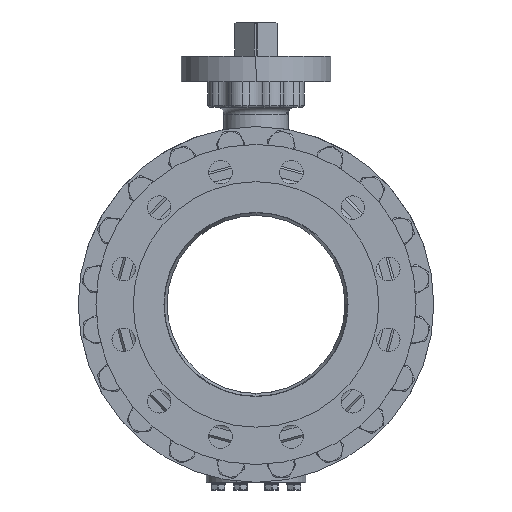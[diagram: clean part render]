
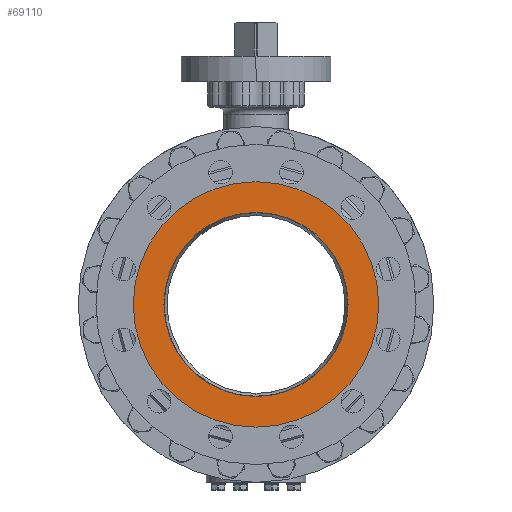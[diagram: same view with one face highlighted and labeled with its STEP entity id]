
A CAD part, left-side view. The second image highlights one B-rep face of the part: STEP entity #69110.
In plain terms, the highlighted planar face has unit normal (-1, 0, 0).
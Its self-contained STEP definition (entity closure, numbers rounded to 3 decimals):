
#3454=CARTESIAN_POINT('',(-284.,0.,0.));
#3455=DIRECTION('',(1.,0.,0.));
#3456=DIRECTION('',(0.,0.,1.));
#3457=AXIS2_PLACEMENT_3D('',#3454,#3455,#3456);
#3459=CARTESIAN_POINT('',(-284.,0.,0.));
#3460=DIRECTION('',(1.,0.,0.));
#3461=DIRECTION('',(0.,0.,-1.));
#3462=AXIS2_PLACEMENT_3D('',#3459,#3460,#3461);
#3464=CARTESIAN_POINT('',(-284.,0.,0.));
#3465=DIRECTION('',(1.,0.,0.));
#3466=DIRECTION('',(0.,0.,1.));
#3467=AXIS2_PLACEMENT_3D('',#3464,#3465,#3466);
#3469=CARTESIAN_POINT('',(-284.,0.,0.));
#3470=DIRECTION('',(-1.,0.,0.));
#3471=DIRECTION('',(0.,0.,1.));
#3472=AXIS2_PLACEMENT_3D('',#3469,#3470,#3471);
#58536=CARTESIAN_POINT('',(-284.,0.,129.4));
#58538=VERTEX_POINT('',#58536);
#58540=CARTESIAN_POINT('',(-284.,0.,-129.4));
#58542=VERTEX_POINT('',#58540);
#58571=CARTESIAN_POINT('',(-284.,0.,172.5));
#58572=CARTESIAN_POINT('',(-284.,0.,-172.5));
#58573=VERTEX_POINT('',#58571);
#58574=VERTEX_POINT('',#58572);
#69094=CARTESIAN_POINT('',(-284.,0.,0.));
#69095=DIRECTION('',(-1.,0.,0.));
#69096=DIRECTION('',(0.,0.,-1.));
#69097=AXIS2_PLACEMENT_3D('',#69094,#69095,#69096);
#69098=PLANE('',#69097);
#69100=ORIENTED_EDGE('',*,*,#69099,.T.);
#69101=ORIENTED_EDGE('',*,*,#69084,.T.);
#69102=EDGE_LOOP('',(#69100,#69101));
#69103=FACE_OUTER_BOUND('',#69102,.F.);
#69105=ORIENTED_EDGE('',*,*,#69104,.F.);
#69107=ORIENTED_EDGE('',*,*,#69106,.T.);
#69108=EDGE_LOOP('',(#69105,#69107));
#69109=FACE_BOUND('',#69108,.F.);
#69110=ADVANCED_FACE('',(#69103,#69109),#69098,.T.);
#3458=CIRCLE('',#3457,172.5);
#3463=CIRCLE('',#3462,172.5);
#3468=CIRCLE('',#3467,129.4);
#3473=CIRCLE('',#3472,129.4);
#69084=EDGE_CURVE('',#58574,#58573,#3463,.T.);
#69099=EDGE_CURVE('',#58573,#58574,#3458,.T.);
#69104=EDGE_CURVE('',#58538,#58542,#3468,.T.);
#69106=EDGE_CURVE('',#58538,#58542,#3473,.T.);
